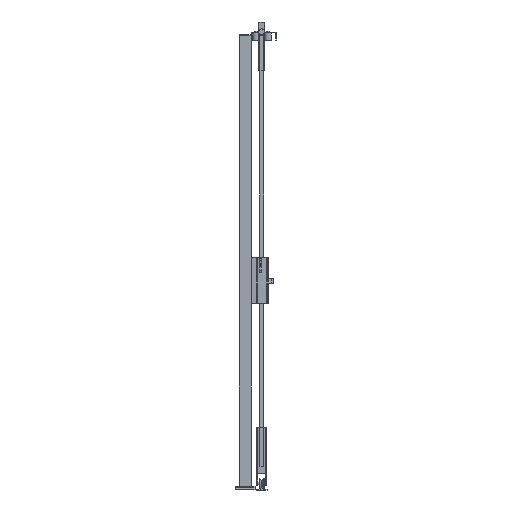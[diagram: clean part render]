
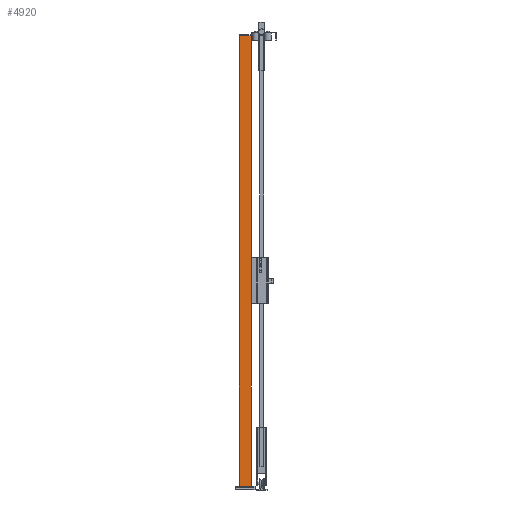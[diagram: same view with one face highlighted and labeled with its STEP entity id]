
A CAD part, left-side view. The second image highlights one B-rep face of the part: STEP entity #4920.
In plain terms, the highlighted planar face has unit normal (-1, 0, 0) as drawn and (0, 1, 0) by its records, which use the part's own axes.
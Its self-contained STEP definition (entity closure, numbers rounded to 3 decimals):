
#543=FACE_OUTER_BOUND('',#908,.T.);
#908=EDGE_LOOP('',(#3141,#3142,#3143,#3144));
#1324=VERTEX_POINT('',#10848);
#1325=VERTEX_POINT('',#10850);
#1327=VERTEX_POINT('',#10856);
#1330=VERTEX_POINT('',#10861);
#2034=EDGE_CURVE('',#1324,#1325,#5939,.T.);
#2040=EDGE_CURVE('',#1330,#1327,#5945,.T.);
#2043=EDGE_CURVE('',#1325,#1330,#5948,.T.);
#2044=EDGE_CURVE('',#1324,#1327,#5949,.T.);
#3141=ORIENTED_EDGE('',*,*,#2044,.T.);
#3142=ORIENTED_EDGE('',*,*,#2040,.F.);
#3143=ORIENTED_EDGE('',*,*,#2043,.F.);
#3144=ORIENTED_EDGE('',*,*,#2034,.F.);
#4601=PLANE('',#7558);
#4920=ADVANCED_FACE('',(#543),#4601,.F.);
#5939=LINE('',#10851,#6844);
#5945=LINE('',#10863,#6850);
#5948=LINE('',#10868,#6853);
#5949=LINE('',#10870,#6854);
#6844=VECTOR('',#8496,1.);
#6850=VECTOR('',#8504,1.);
#6853=VECTOR('',#8511,1.);
#6854=VECTOR('',#8514,1.);
#7558=AXIS2_PLACEMENT_3D('',#10869,#8512,#8513);
#8496=DIRECTION('',(-1.,0.,0.));
#8504=DIRECTION('',(1.,0.,0.));
#8511=DIRECTION('',(0.,0.,-1.));
#8512=DIRECTION('center_axis',(0.,-1.,0.));
#8513=DIRECTION('ref_axis',(0.,0.,-1.));
#8514=DIRECTION('',(0.,0.,-1.));
#10848=CARTESIAN_POINT('',(30.,30.,2320.));
#10850=CARTESIAN_POINT('',(-30.,30.,2320.));
#10851=CARTESIAN_POINT('',(0.,30.,2320.));
#10856=CARTESIAN_POINT('',(30.,30.,20.));
#10861=CARTESIAN_POINT('',(-30.,30.,20.));
#10863=CARTESIAN_POINT('',(0.,30.,20.));
#10868=CARTESIAN_POINT('',(-30.,30.,1170.));
#10869=CARTESIAN_POINT('Origin',(0.,30.,
1170.));
#10870=CARTESIAN_POINT('',(30.,30.,1170.));
